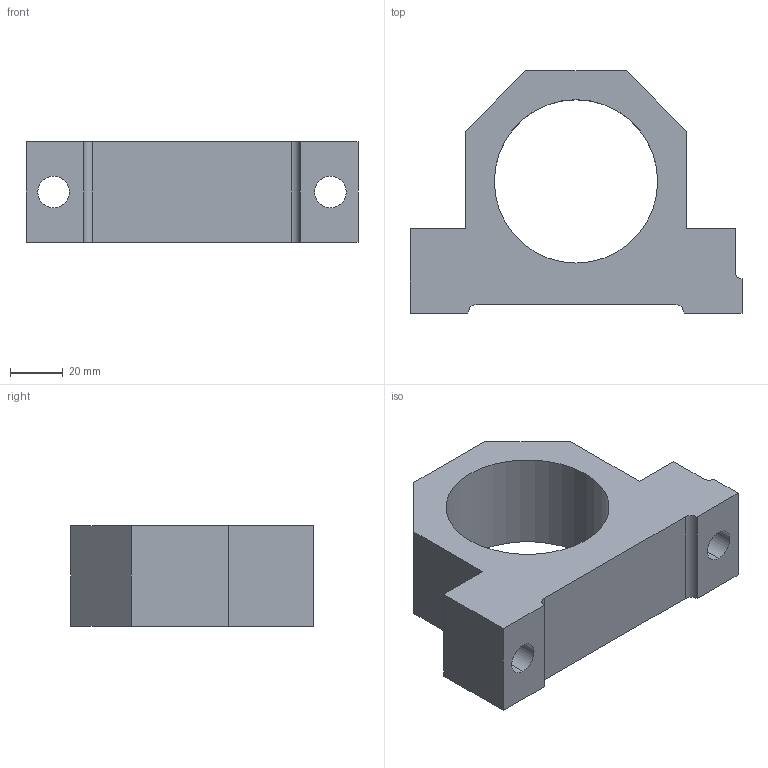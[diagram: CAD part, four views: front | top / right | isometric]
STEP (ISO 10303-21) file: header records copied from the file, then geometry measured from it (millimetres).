
FILE_DESCRIPTION (( 'STEP AP203' ), '1' );
FILE_NAME ('SLA-30.STEP', '2002-08-15T13:51:39', ( '.' ), ( '.' ), 'SwSTEP 2.0', 'SolidWorks 2001340', '' );
FILE_SCHEMA (( 'CONFIG_CONTROL_DESIGN' ));
Length unit declared in the file: millimetre
Products named in the file (1): SLA-30
Bounding box: 126 x 92 x 38 mm (x, y, z)
Volume: 191044.8 mm3; surface area: 35438.4 mm2
Topology: 1 solids, 1 shells, 24 faces, 66 edges, 44 vertices
Faces by surface type: plane 15, cylinder 9
Entity records: 857 total; most frequent: CARTESIAN_POINT 135, DIRECTION 134, ORIENTED_EDGE 132, EDGE_CURVE 66, LINE 48, VECTOR 48, VERTEX_POINT 44, AXIS2_PLACEMENT_3D 43
